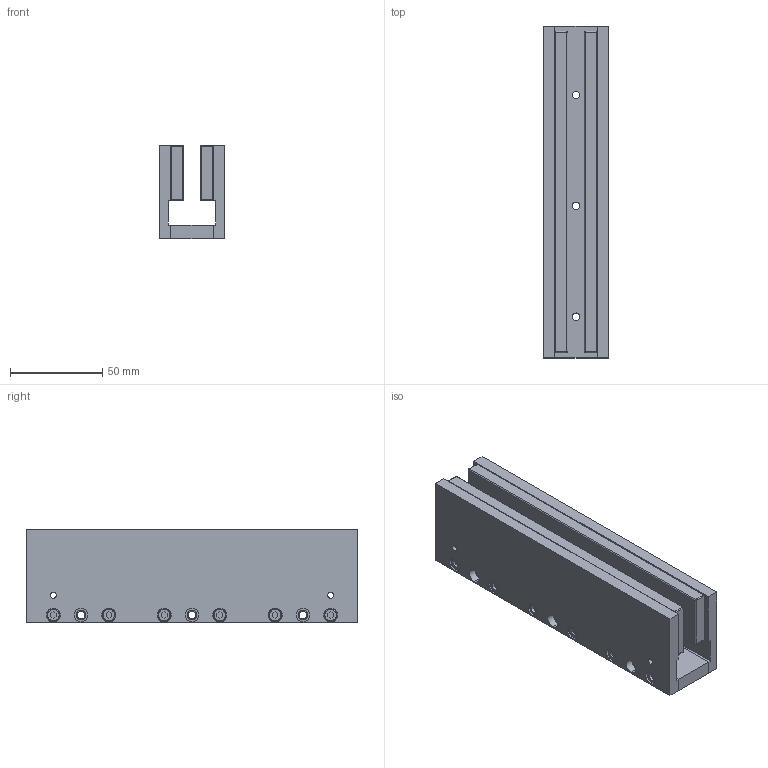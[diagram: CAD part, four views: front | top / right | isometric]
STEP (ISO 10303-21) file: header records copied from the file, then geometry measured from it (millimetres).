
FILE_DESCRIPTION (( 'STEP AP203' ), '1' );
FILE_NAME ('DX30F-TL180.step', '2021-01-04T10:14:00', ( '' ), ( '' ), 'SwSTEP 2.0', 'SolidWorks 2020', '' );
FILE_SCHEMA (( 'CONFIG_CONTROL_DESIGN' ));
Length unit declared in the file: millimetre
Products named in the file (1): DX30F-TL180
Bounding box: 35.7 x 179.5 x 50.8 mm (x, y, z)
Volume: 209179.9 mm3; surface area: 60385.1 mm2
Topology: 1 solids, 19 shells, 404 faces, 884 edges, 552 vertices
Faces by surface type: plane 188, cylinder 176, torus 24, sphere 16
Entity records: 11121 total; most frequent: DIRECTION 2078, CARTESIAN_POINT 1825, ORIENTED_EDGE 1736, EDGE_CURVE 868, AXIS2_PLACEMENT_3D 805, VERTEX_POINT 552, EDGE_LOOP 498, VECTOR 468
